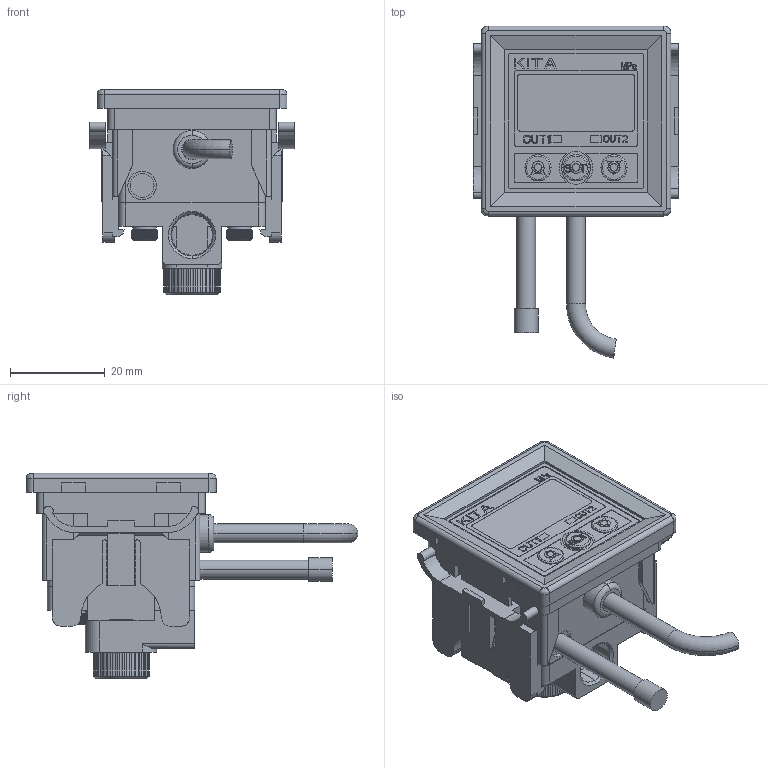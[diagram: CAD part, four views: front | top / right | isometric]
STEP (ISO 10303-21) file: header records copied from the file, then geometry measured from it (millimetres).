
FILE_DESCRIPTION((''),'2;1');
FILE_NAME('KP25_PA-A','2019-07-04T',('Stark'),(''),'CREO PARAMETRIC BY PTC INC, 2014500','CREO PARAMETRIC BY PTC INC, 2014500','');
FILE_SCHEMA(('CONFIG_CONTROL_DESIGN'));
Products named in the file (1): KP25_PA-A
Bounding box: 43.3 x 69.88 x 43.2 mm (x, y, z)
Volume: 37011.4 mm3; surface area: 13972 mm2
Topology: 2 solids, 4 shells, 1620 faces, 4425 edges, 2815 vertices
Faces by surface type: plane 1011, cylinder 307, bspline 200, cone 86, torus 14, extrusion 2
Entity records: 64341 total; most frequent: CARTESIAN_POINT 24969, ORIENTED_EDGE 8846, DIRECTION 7218, EDGE_CURVE 4423, VECTOR 2948, LINE 2946, VERTEX_POINT 2815, AXIS2_PLACEMENT_3D 2135
